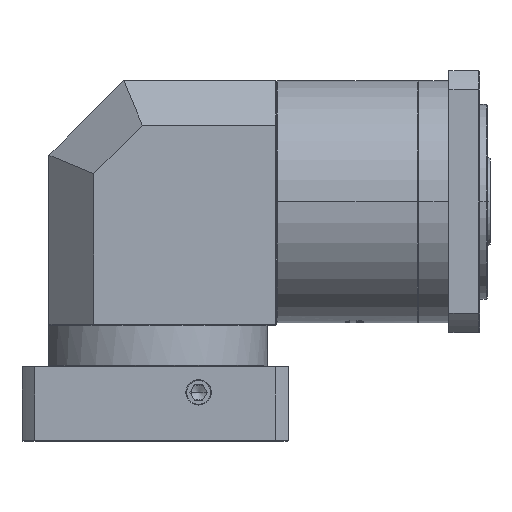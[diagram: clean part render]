
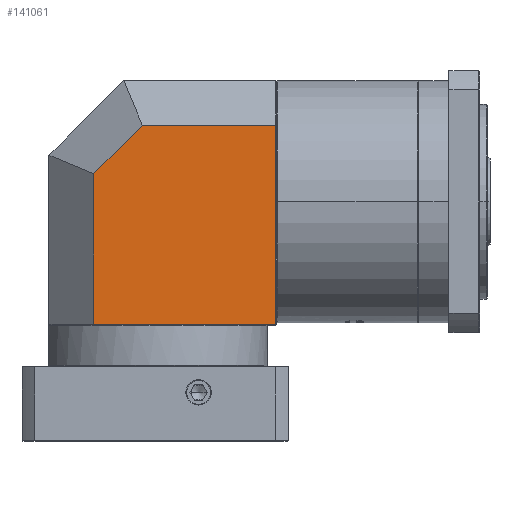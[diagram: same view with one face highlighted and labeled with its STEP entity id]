
A CAD part, top view. The second image highlights one B-rep face of the part: STEP entity #141061.
In plain terms, the highlighted planar face has unit normal (0, 0, 1).
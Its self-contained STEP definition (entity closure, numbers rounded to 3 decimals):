
#1434 = DIRECTION ( 'NONE',  ( 0., 0., 1. ) ) ;
#2368 = PLANE ( 'NONE',  #27269 ) ;
#7234 = DIRECTION ( 'NONE',  ( 1., 0., 0. ) ) ;
#12617 = CARTESIAN_POINT ( 'NONE',  ( -79.111, -63.122, 333.583 ) ) ;
#18025 = LINE ( 'NONE', #90928, #42695 ) ;
#19427 = EDGE_CURVE ( 'NONE', #68168, #112481, #105791, .T. ) ;
#19626 = EDGE_CURVE ( 'NONE', #112481, #82039, #18025, .T. ) ;
#22669 = ORIENTED_EDGE ( 'NONE', *, *, #19427, .T. ) ;
#26351 = DIRECTION ( 'NONE',  ( -0.707, -0.707, 0. ) ) ;
#26731 = CARTESIAN_POINT ( 'NONE',  ( 42.589, -163.696, 333.583 ) ) ;
#27269 = AXIS2_PLACEMENT_3D ( 'NONE', #68176, #1434, #58370 ) ;
#29846 = VECTOR ( 'NONE', #7234, 1000. ) ;
#30758 = ORIENTED_EDGE ( 'NONE', *, *, #120695, .F. ) ;
#34616 = DIRECTION ( 'NONE',  ( 1., 0., 0. ) ) ;
#40180 = EDGE_CURVE ( 'NONE', #82571, #68168, #92231, .T. ) ;
#42695 = VECTOR ( 'NONE', #34616, 1000. ) ;
#43067 = ORIENTED_EDGE ( 'NONE', *, *, #19626, .T. ) ;
#45375 = CARTESIAN_POINT ( 'NONE',  ( 42.589, -30.696, 333.583 ) ) ;
#48695 = VECTOR ( 'NONE', #133834, 1000. ) ;
#49107 = CARTESIAN_POINT ( 'NONE',  ( -46.685, -30.696, 333.583 ) ) ;
#51392 = CARTESIAN_POINT ( 'NONE',  ( -33.011, -30.696, 333.583 ) ) ;
#58370 = DIRECTION ( 'NONE',  ( 1., 0., 0. ) ) ;
#68168 = VERTEX_POINT ( 'NONE', #12617 ) ;
#68176 = CARTESIAN_POINT ( 'NONE',  ( -33.011, -82.446, 333.583 ) ) ;
#82039 = VERTEX_POINT ( 'NONE', #26731 ) ;
#82571 = VERTEX_POINT ( 'NONE', #49107 ) ;
#83051 = EDGE_LOOP ( 'NONE', ( #43067, #114250, #30758, #136252, #22669 ) ) ;
#87666 = EDGE_CURVE ( 'NONE', #92903, #82039, #94262, .T. ) ;
#88399 = CARTESIAN_POINT ( 'NONE',  ( 42.589, -82.446, 333.583 ) ) ;
#90928 = CARTESIAN_POINT ( 'NONE',  ( -33.011, -163.696, 333.583 ) ) ;
#92231 = LINE ( 'NONE', #127682, #123598 ) ;
#92903 = VERTEX_POINT ( 'NONE', #45375 ) ;
#94262 = LINE ( 'NONE', #88399, #48695 ) ;
#94779 = LINE ( 'NONE', #51392, #29846 ) ;
#102243 = VECTOR ( 'NONE', #136359, 1000. ) ;
#105791 = LINE ( 'NONE', #125103, #102243 ) ;
#112481 = VERTEX_POINT ( 'NONE', #142746 ) ;
#114250 = ORIENTED_EDGE ( 'NONE', *, *, #87666, .F. ) ;
#120695 = EDGE_CURVE ( 'NONE', #82571, #92903, #94779, .T. ) ;
#123598 = VECTOR ( 'NONE', #26351, 1000. ) ;
#125103 = CARTESIAN_POINT ( 'NONE',  ( -79.111, -82.446, 333.583 ) ) ;
#127682 = CARTESIAN_POINT ( 'NONE',  ( -46.685, -30.696, 333.583 ) ) ;
#133834 = DIRECTION ( 'NONE',  ( 0., -1., 0. ) ) ;
#136252 = ORIENTED_EDGE ( 'NONE', *, *, #40180, .T. ) ;
#136359 = DIRECTION ( 'NONE',  ( 0., -1., 0. ) ) ;
#141061 = ADVANCED_FACE ( 'NONE', ( #144336 ), #2368, .T. ) ;
#142746 = CARTESIAN_POINT ( 'NONE',  ( -79.111, -163.696, 333.583 ) ) ;
#144336 = FACE_OUTER_BOUND ( 'NONE', #83051, .T. ) ;
